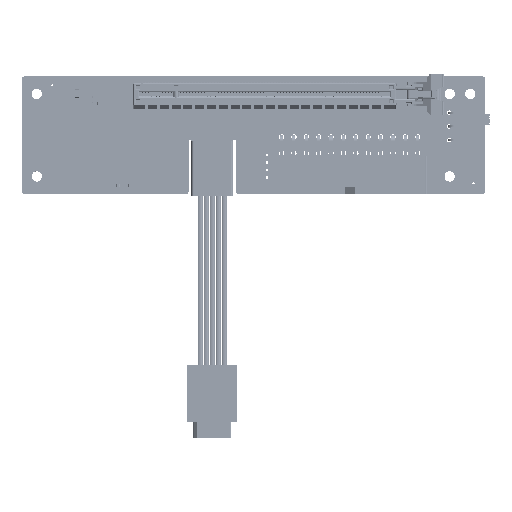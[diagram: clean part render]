
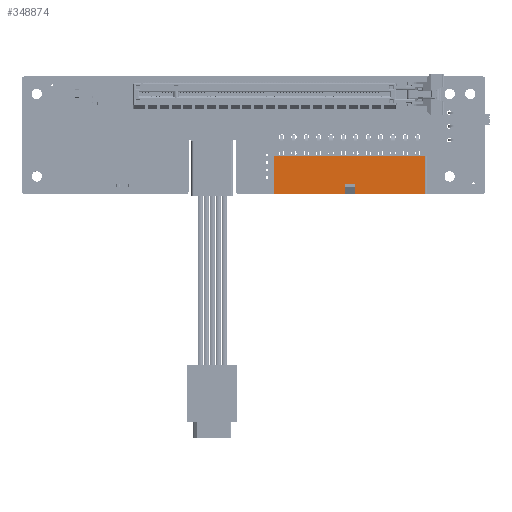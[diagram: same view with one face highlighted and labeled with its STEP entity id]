
A CAD part, top view. The second image highlights one B-rep face of the part: STEP entity #348874.
In plain terms, the highlighted planar face has unit normal (0, 0, 1) as drawn and (0, 1, 0) by its records, which use the part's own axes.
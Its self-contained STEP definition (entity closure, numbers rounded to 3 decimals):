
#329064 = VERTEX_POINT('',#329065);
#329065 = CARTESIAN_POINT('',(-1.7,10.,-3.05));
#329082 = VERTEX_POINT('',#329083);
#329083 = CARTESIAN_POINT('',(1.7,10.,-3.05));
#329089 = EDGE_CURVE('',#329064,#329082,#329090,.T.);
#329090 = LINE('',#329091,#329092);
#329091 = CARTESIAN_POINT('',(-1.7,10.,-3.05));
#329092 = VECTOR('',#329093,1.);
#329093 = DIRECTION('',(1.,0.,0.));
#329137 = VERTEX_POINT('',#329138);
#329138 = CARTESIAN_POINT('',(1.7,10.,0.));
#329144 = EDGE_CURVE('',#329137,#329082,#329145,.T.);
#329145 = LINE('',#329146,#329147);
#329146 = CARTESIAN_POINT('',(1.7,10.,0.));
#329147 = VECTOR('',#329148,1.);
#329148 = DIRECTION('',(0.,0.,-1.));
#347006 = VERTEX_POINT('',#347007);
#347007 = CARTESIAN_POINT('',(25.5,10.,-12.8));
#347016 = EDGE_CURVE('',#347006,#347017,#347019,.T.);
#347017 = VERTEX_POINT('',#347018);
#347018 = CARTESIAN_POINT('',(25.5,10.,0.));
#347019 = LINE('',#347020,#347021);
#347020 = CARTESIAN_POINT('',(25.5,10.,-12.8));
#347021 = VECTOR('',#347022,1.);
#347022 = DIRECTION('',(0.,0.,1.));
#347656 = VERTEX_POINT('',#347657);
#347657 = CARTESIAN_POINT('',(-25.5,10.,-12.8));
#347664 = EDGE_CURVE('',#347656,#347006,#347665,.T.);
#347665 = LINE('',#347666,#347667);
#347666 = CARTESIAN_POINT('',(-25.5,10.,-12.8));
#347667 = VECTOR('',#347668,1.);
#347668 = DIRECTION('',(1.,0.,0.));
#348856 = VERTEX_POINT('',#348857);
#348857 = CARTESIAN_POINT('',(-25.5,10.,0.));
#348864 = EDGE_CURVE('',#347656,#348856,#348865,.T.);
#348865 = LINE('',#348866,#348867);
#348866 = CARTESIAN_POINT('',(-25.5,10.,-12.8));
#348867 = VECTOR('',#348868,1.);
#348868 = DIRECTION('',(0.,0.,1.));
#348874 = ADVANCED_FACE('',(#348875),#348902,.T.);
#348875 = FACE_BOUND('',#348876,.T.);
#348876 = EDGE_LOOP('',(#348877,#348878,#348879,#348885,#348886,#348887,
    #348888,#348896));
#348877 = ORIENTED_EDGE('',*,*,#329089,.T.);
#348878 = ORIENTED_EDGE('',*,*,#329144,.F.);
#348879 = ORIENTED_EDGE('',*,*,#348880,.T.);
#348880 = EDGE_CURVE('',#329137,#347017,#348881,.T.);
#348881 = LINE('',#348882,#348883);
#348882 = CARTESIAN_POINT('',(1.7,10.,0.));
#348883 = VECTOR('',#348884,1.);
#348884 = DIRECTION('',(1.,0.,0.));
#348885 = ORIENTED_EDGE('',*,*,#347016,.F.);
#348886 = ORIENTED_EDGE('',*,*,#347664,.F.);
#348887 = ORIENTED_EDGE('',*,*,#348864,.T.);
#348888 = ORIENTED_EDGE('',*,*,#348889,.T.);
#348889 = EDGE_CURVE('',#348856,#348890,#348892,.T.);
#348890 = VERTEX_POINT('',#348891);
#348891 = CARTESIAN_POINT('',(-1.7,10.,0.));
#348892 = LINE('',#348893,#348894);
#348893 = CARTESIAN_POINT('',(-25.5,10.,0.));
#348894 = VECTOR('',#348895,1.);
#348895 = DIRECTION('',(1.,0.,0.));
#348896 = ORIENTED_EDGE('',*,*,#348897,.T.);
#348897 = EDGE_CURVE('',#348890,#329064,#348898,.T.);
#348898 = LINE('',#348899,#348900);
#348899 = CARTESIAN_POINT('',(-1.7,10.,0.));
#348900 = VECTOR('',#348901,1.);
#348901 = DIRECTION('',(0.,0.,-1.));
#348902 = PLANE('',#348903);
#348903 = AXIS2_PLACEMENT_3D('',#348904,#348905,#348906);
#348904 = CARTESIAN_POINT('',(-25.8,10.,0.));
#348905 = DIRECTION('',(-0.,1.,0.));
#348906 = DIRECTION('',(1.,0.,0.));
